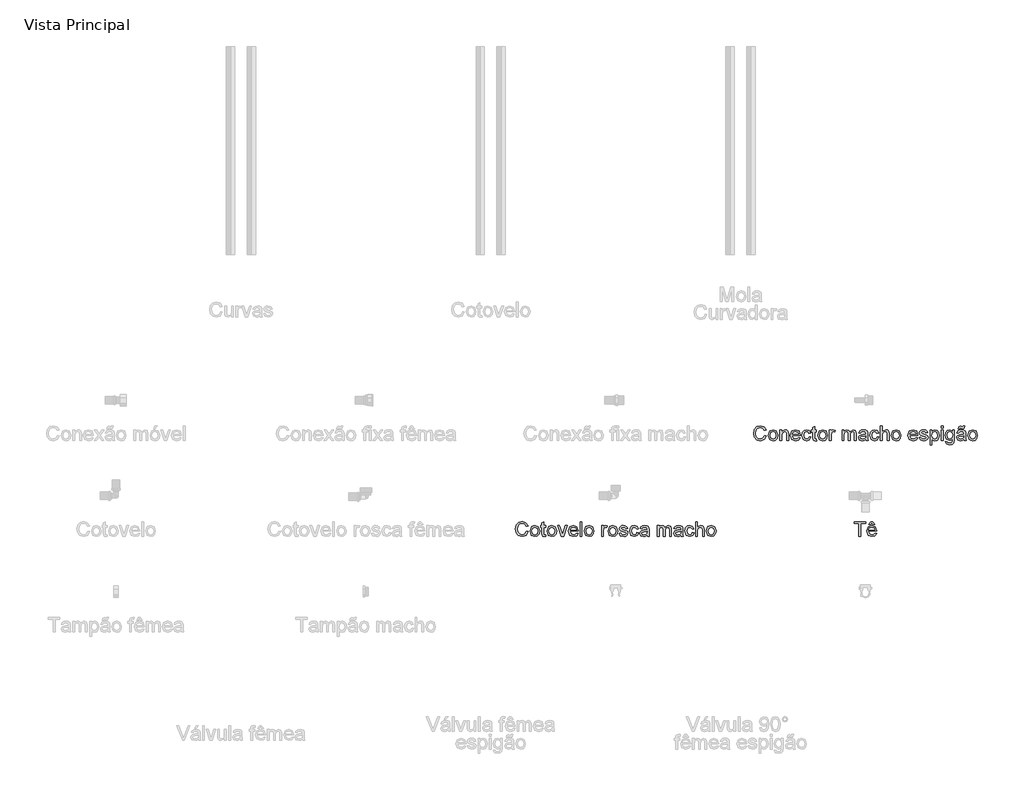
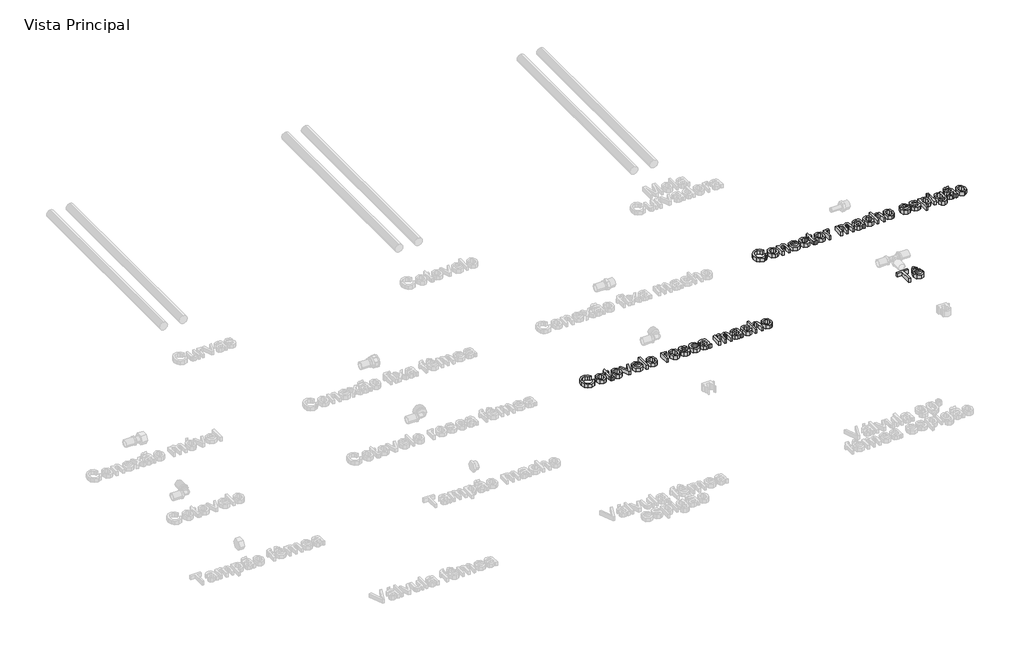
# One storey, part 4 of 5: 3 proxies.
"""IFC4 building model written with IfcOpenShell, lengths in millimetres."""

from ifc_helpers import new_model, si_unit, origin, origin_with_axes, place, context, project, spatial, polyline, outline, extrude, element, save

model = new_model("IFC4")

# Units and contexts
model_context = context("Model", 3, world=origin())
ifc_project = project(units=[si_unit("LENGTHUNIT", "METRE", prefix="MILLI")], contexts=[model_context])

# Site, building, storey
site = spatial("IfcSite", under=ifc_project)
building = spatial("IfcBuilding", under=site)
storey = spatial("IfcBuildingStorey", under=building, Name="Vista Principal", Elevation=0.0)

# Proxies
placement = place(None, origin())
element("IfcBuildingElementProxy", 1, Name="Texto", ObjectType="Texto", at=placement, inside=storey, context=model_context, shape_type="SweptSolid", body=[
    extrude(outline(polyline([(466.0795814, -120.9709901), (470.474545, -122.1040666), (465.2641097, -130.966957), (456.0621547, -134.0185382), (446.9159951, -131.7094655), (441.5510494, -125.0225971), (439.7098, -115.6232122), (441.791399, -106.0693168), (447.7100071, -99.8760234), (456.1565777, -97.7600888), (464.9593807, -100.4983571), (469.9251745, -108.2067111), (465.530211, -109.2539486), (461.9249674, -103.8503752), (455.9848995, -102.1550523), (449.109185, -104.0349293), (445.2249642, -109.0822703), (444.1047636, -115.6146283), (445.4309782, -123.1856397), (449.5598404, -128.0226748), (455.6243751, -129.6235746), (462.3498711, -127.4432607), (466.0795814, -120.9709901)])), origin_with_axes(), (0.0, 0.0, 1.0), 10.0),
    extrude(outline(polyline([(474.8695086, -120.5589623), (478.6721821, -109.9578294), (486.4148718, -107.0993863), (494.7198079, -110.5801632), (497.9430673, -120.1984379), (496.5181377, -128.0183829), (492.3678157, -132.4433901), (486.4148718, -134.0185382), (478.0584323, -130.5506373), (474.8695086, -120.5589623)]), holes=[polyline([(479.2644721, -120.5503784), (481.2988596, -127.3617135), (486.4148718, -129.6235746), (491.5137163, -127.3488376), (493.5481037, -120.4130357), (491.5008404, -113.756211), (486.4148718, -111.4943499), (481.2988596, -113.7476271), (479.2644721, -120.5503784)])]), origin_with_axes(), (0.0, 0.0, 1.0), 10.0),
    extrude(outline(polyline([(502.8874013, -133.4691678), (502.8874013, -107.6487568), (507.2823649, -107.6487568), (507.2823649, -111.2540003), (515.2310685, -107.0993863), (519.3813906, -107.9363179), (522.2140819, -110.1337997), (523.5317126, -113.365643), (523.7634783, -117.61468), (523.7634783, -133.4691678), (519.3685147, -133.4691678), (519.3685147, -118.20697), (518.8620638, -114.3184574), (517.0723179, -112.2626101), (514.0550724, -111.4943499), (509.2867086, -113.2197165), (507.2823649, -119.7692423), (507.2823649, -133.4691678), (502.8874013, -133.4691678)])), origin_with_axes(), (0.0, 0.0, 1.0), 10.0),
    extrude(outline(polyline([(547.8842744, -125.7779815), (552.1933988, -126.327352), (548.1632516, -132.0013186), (540.6566195, -134.0185382), (531.5319197, -130.5377614), (528.1584418, -120.7735601), (531.5662554, -110.6874621), (540.407686, -107.0993863), (548.9958912, -110.6788782), (552.3307415, -120.7478084), (532.5534054, -121.9323884), (535.0813678, -127.6406907), (540.7424586, -129.6235746), (545.051583, -128.7050959), (547.8842744, -125.7779815)]), holes=[polyline([(532.5534054, -117.5374248), (547.9357779, -117.5374248), (546.1760757, -113.5544891), (540.3905182, -111.4943499), (534.9783609, -113.1381693), (532.5534054, -117.5374248)])]), origin_with_axes(), (0.0, 0.0, 1.0), 10.0),
    extrude(outline(polyline([(573.2068184, -124.1298702), (577.601782, -124.6792406), (574.0737936, -131.5420792), (567.1036561, -134.0185382), (558.7729683, -130.5635131), (555.6269641, -120.6533853), (556.9703466, -113.3527671), (561.0648732, -108.6616585), (567.0435687, -107.0993863), (573.7261452, -109.2453646), (577.0524115, -115.339943), (572.657448, -115.8893135), (570.6187686, -112.5973828), (567.0779044, -111.4943499), (561.9833519, -113.66608), (560.0219277, -120.5332105), (561.9404323, -127.4647205), (566.9577296, -129.6235746), (571.0994677, -128.2759003), (573.2068184, -124.1298702)])), origin_with_axes(), (0.0, 0.0, 1.0), 10.0),
    extrude(outline(polyline([(590.7866727, -129.8038368), (591.3360431, -133.5979265), (588.0484044, -134.0185382), (584.3659056, -133.2889056), (582.5289482, -131.3746929), (581.9967455, -126.3874393), (581.9967455, -112.0437204), (578.7005229, -112.0437204), (578.7005229, -107.6487568), (581.9967455, -107.6487568), (581.9967455, -101.3739162), (586.3917091, -98.7901583), (586.3917091, -107.6487568), (590.7866727, -107.6487568), (590.7866727, -112.0437204), (586.3917091, -112.0437204), (586.3917091, -126.2586806), (586.6234748, -128.5248337), (590.7866727, -129.8038368)])), origin_with_axes(), (0.0, 0.0, 1.0), 10.0),
    extrude(outline(polyline([(594.0828954, -120.5589623), (597.8855689, -109.9578294), (605.6282586, -107.0993863), (613.9331947, -110.5801632), (617.1564541, -120.1984379), (615.7315245, -128.0183829), (611.5812025, -132.4433901), (605.6282586, -134.0185382), (597.2718191, -130.5506373), (594.0828954, -120.5589623)]), holes=[polyline([(598.4778589, -120.5503784), (600.5122464, -127.3617135), (605.6282586, -129.6235746), (610.7271031, -127.3488376), (612.7614905, -120.4130357), (610.7142272, -113.756211), (605.6282586, -111.4943499), (600.5122464, -113.7476271), (598.4778589, -120.5503784)])]), origin_with_axes(), (0.0, 0.0, 1.0), 10.0),
    extrude(outline(polyline([(622.1007881, -133.4691678), (622.1007881, -107.6487568), (625.9463812, -107.6487568), (625.9463812, -111.4685982), (628.6760656, -107.9491937), (631.4229179, -107.0993863), (635.8350493, -108.4556446), (634.3672001, -112.3956608), (631.2769913, -111.4943499), (628.7919485, -112.3613251), (627.2082165, -114.7648208), (626.4957517, -119.898001), (626.4957517, -133.4691678), (622.1007881, -133.4691678)])), origin_with_axes(), (0.0, 0.0, 1.0), 10.0),
    extrude(outline(polyline([(652.3161627, -133.4691678), (652.3161627, -107.6487568), (656.7111262, -107.6487568), (656.7111262, -111.8977938), (659.7326637, -108.417017), (664.0332042, -107.0993863), (668.4367517, -108.4427688), (670.8574152, -112.2068147), (678.6172728, -107.0993863), (684.3642027, -109.2239049), (686.3771303, -115.7691387), (686.3771303, -133.4691678), (681.9821667, -133.4691678), (681.9821667, -117.6575996), (681.5744309, -113.9879767), (680.0979978, -112.181063), (677.5872032, -111.4943499), (673.2652029, -113.2540521), (671.5441283, -118.8936831), (671.5441283, -133.4691678), (667.1491647, -133.4691678), (667.1491647, -117.1683165), (666.131971, -112.9106956), (662.7971207, -111.4943499), (659.5438176, -112.4385804), (657.3806715, -115.2026004), (656.7111262, -120.4473714), (656.7111262, -133.4691678), (652.3161627, -133.4691678)])), origin_with_axes(), (0.0, 0.0, 1.0), 10.0),
    extrude(outline(polyline([(709.4506891, -130.1729451), (705.1887761, -133.151563), (700.4804997, -134.0185382), (694.0983603, -131.9326473), (691.8708348, -126.6020372), (692.7120583, -123.1255523), (694.9224159, -120.6018818), (697.9997488, -119.1597844), (701.8024224, -118.4988231), (709.4249373, -116.9880544), (708.2403573, -112.7647691), (703.3818624, -111.4943499), (698.9353954, -112.3398654), (696.8151688, -115.339943), (692.4202052, -114.7905726), (694.321542, -110.498616), (698.1499673, -107.9835294), (703.9484007, -107.0993863), (709.2747188, -107.8805224), (712.2833804, -109.8419466), (713.6310548, -112.8248565), (713.8456526, -116.6704496), (713.8456526, -122.1384023), (714.0688344, -129.7737931), (714.9443935, -133.4691678), (710.5494299, -133.4691678), (709.4506891, -130.1729451)]), holes=[polyline([(709.4378132, -122.0053516), (702.3603767, -122.7306923), (698.579163, -123.4431571), (696.8666723, -124.6019854), (696.2657983, -126.2930163), (697.5748451, -128.6707603), (701.4161463, -129.6235746), (705.8626133, -128.5720453), (708.7296403, -126.026915), (709.4378132, -122.0053516)])]), origin_with_axes(), (0.0, 0.0, 1.0), 10.0),
    extrude(outline(polyline([(736.3698409, -124.1298702), (740.7648045, -124.6792406), (737.2368161, -131.5420792), (730.2666786, -134.0185382), (721.9359908, -130.5635131), (718.7899866, -120.6533853), (720.1333691, -113.3527671), (724.2278957, -108.6616585), (730.2065912, -107.0993863), (736.8891677, -109.2453646), (740.215434, -115.339943), (735.8204705, -115.8893135), (733.7817911, -112.5973828), (730.2409269, -111.4943499), (725.1463744, -113.66608), (723.1849502, -120.5332105), (725.1034548, -127.4647205), (730.1207521, -129.6235746), (734.2624902, -128.2759003), (736.3698409, -124.1298702)])), origin_with_axes(), (0.0, 0.0, 1.0), 10.0),
    extrude(outline(polyline([(744.6103976, -133.4691678), (744.6103976, -98.3094592), (749.0053612, -98.3094592), (749.0053612, -111.2368325), (756.6536279, -107.0993863), (761.589378, -108.2281709), (764.5851637, -111.3484234), (765.4864746, -117.125397), (765.4864746, -133.4691678), (761.091511, -133.4691678), (761.091511, -117.5803444), (759.6923331, -112.9450312), (755.7265652, -111.4943499), (752.1256136, -112.472916), (749.7221179, -115.1253452), (749.0053612, -119.7520744), (749.0053612, -133.4691678), (744.6103976, -133.4691678)])), origin_with_axes(), (0.0, 0.0, 1.0), 10.0),
    extrude(outline(polyline([(770.4308086, -120.5589623), (774.2334821, -109.9578294), (781.9761719, -107.0993863), (790.2811079, -110.5801632), (793.5043673, -120.1984379), (792.0794377, -128.0183829), (787.9291157, -132.4433901), (781.9761719, -134.0185382), (773.6197323, -130.5506373), (770.4308086, -120.5589623)]), holes=[polyline([(774.8257721, -120.5503784), (776.8601596, -127.3617135), (781.9761719, -129.6235746), (787.0750163, -127.3488376), (789.1094037, -120.4130357), (787.0621404, -113.756211), (781.9761719, -111.4943499), (776.8601596, -113.7476271), (774.8257721, -120.5503784)])]), origin_with_axes(), (0.0, 0.0, 1.0), 10.0),
    extrude(outline(polyline([(830.2606837, -125.7779815), (834.5698082, -126.327352), (830.5396609, -132.0013186), (823.0330288, -134.0185382), (813.908329, -130.5377614), (810.5348511, -120.7735601), (813.9426647, -110.6874621), (822.7840953, -107.0993863), (831.3723005, -110.6788782), (834.7071508, -120.7478084), (814.9298147, -121.9323884), (817.4577772, -127.6406907), (823.1188679, -129.6235746), (827.4279924, -128.7050959), (830.2606837, -125.7779815)]), holes=[polyline([(814.9298147, -117.5374248), (830.3121872, -117.5374248), (828.552485, -113.5544891), (822.7669275, -111.4943499), (817.3547702, -113.1381693), (814.9298147, -117.5374248)])]), origin_with_axes(), (0.0, 0.0, 1.0), 10.0),
    extrude(outline(polyline([(837.454003, -125.7779815), (841.8489666, -125.2286111), (843.883354, -128.4904981), (848.5444189, -129.6235746), (853.0252216, -128.5849211), (854.4844868, -126.1470898), (853.0166377, -124.1727897), (848.4929154, -122.9195384), (841.8747183, -120.7692681), (838.9862315, -118.2584735), (838.0033734, -114.7133174), (838.7930935, -111.4385545), (840.9476557, -108.9363438), (843.7417194, -107.6358809), (847.5229332, -107.0993863), (852.8707111, -107.9620696), (856.2699408, -110.296894), (857.7807095, -114.2412021), (853.3857459, -114.7905726), (851.7333426, -112.3656171), (847.8662897, -111.4943499), (843.6601723, -112.3269895), (842.398337, -114.2669539), (844.5614831, -116.5159391), (848.3469889, -117.4515857), (854.7977997, -119.5203088), (857.7935854, -121.8637171), (858.8794504, -125.6835585), (857.6047393, -129.8896759), (853.9265325, -132.9412571), (848.4843315, -134.0185382), (840.818897, -131.9412312), (837.454003, -125.7779815)])), origin_with_axes(), (0.0, 0.0, 1.0), 10.0),
    extrude(outline(polyline([(863.8237844, -143.3578358), (863.8237844, -107.6487568), (868.218748, -107.6487568), (868.218748, -111.9578812), (871.2574533, -108.3140101), (875.3605638, -107.0993863), (880.9315235, -108.7990012), (884.5711027, -113.5888247), (885.7986023, -120.3615323), (884.4123003, -127.4818883), (880.386445, -132.3317993), (874.8283612, -134.0185382), (871.0042278, -132.8897536), (868.218748, -130.0356025), (868.218748, -143.3578358), (863.8237844, -143.3578358)]), holes=[polyline([(868.218748, -120.7649762), (870.1200848, -127.4604285), (874.7339381, -129.6235746), (879.4422145, -127.3831733), (881.4036387, -120.4387875), (879.489426, -113.7261673), (874.9142003, -111.4943499), (870.2488435, -113.8678019), (868.218748, -120.7649762)])]), origin_with_axes(), (0.0, 0.0, 1.0), 10.0),
    extrude(outline(polyline([(890.7429363, -102.7044228), (890.7429363, -98.3094592), (895.1378998, -98.3094592), (895.1378998, -102.7044228), (890.7429363, -102.7044228)])), origin_with_axes(), (0.0, 0.0, 1.0), 10.0),
    extrude(outline(polyline([(890.7429363, -133.4691678), (890.7429363, -107.6487568), (895.1378998, -107.6487568), (895.1378998, -133.4691678), (890.7429363, -133.4691678)])), origin_with_axes(), (0.0, 0.0, 1.0), 10.0),
    extrude(outline(polyline([(900.6316043, -135.6666495), (905.0265679, -136.21602), (906.4514975, -138.5336766), (910.7177023, -139.5122427), (915.2156729, -138.4049179), (917.3616512, -135.2975413), (917.6620881, -130.1729451), (910.7949576, -133.4691678), (902.8848815, -129.6321585), (900.0822339, -120.4302036), (901.3397771, -113.6188684), (904.9793564, -108.7990012), (910.5803597, -107.0993863), (917.6620881, -110.9449795), (917.6620881, -107.6487568), (922.0570517, -107.6487568), (922.0570517, -129.9411794), (920.8553039, -138.4778811), (917.0483383, -142.447941), (910.6318632, -143.9072062), (903.3226611, -141.851359), (900.6316043, -135.6666495)]), holes=[polyline([(904.4771974, -120.1297666), (906.3527825, -126.9325178), (911.0610589, -129.0742042), (915.7607514, -126.9453937), (917.6620881, -120.2585253), (915.7049559, -113.7047076), (910.9923876, -111.4943499), (906.3785342, -113.6703719), (904.4771974, -120.1297666)])]), origin_with_axes(), (0.0, 0.0, 1.0), 10.0),
    extrude(outline(polyline([(945.1306104, -130.1729451), (940.8686975, -133.151563), (936.1604211, -134.0185382), (929.7782816, -131.9326473), (927.5507562, -126.6020372), (928.3919797, -123.1255523), (930.6023373, -120.6018818), (933.6796702, -119.1597844), (937.4823438, -118.4988231), (945.1048587, -116.9880544), (943.9202787, -112.7647691), (939.0617838, -111.4943499), (934.6153167, -112.3398654), (932.4950902, -115.339943), (928.1001266, -114.7905726), (930.0014634, -110.498616), (933.8298887, -107.9835294), (939.6283221, -107.0993863), (944.9546402, -107.8805224), (947.9633018, -109.8419466), (949.3109762, -112.8248565), (949.525574, -116.6704496), (949.525574, -122.1384023), (949.7487558, -129.7737931), (950.6243149, -133.4691678), (946.2293513, -133.4691678), (945.1306104, -130.1729451)]), holes=[polyline([(945.1177346, -122.0053516), (938.0402981, -122.7306923), (934.2590843, -123.4431571), (932.5465937, -124.6019854), (931.9457197, -126.2930163), (933.2547665, -128.6707603), (937.0960677, -129.6235746), (941.5425347, -128.5720453), (944.4095617, -126.026915), (945.1177346, -122.0053516)])]), origin_with_axes(), (0.0, 0.0, 1.0), 10.0),
    extrude(outline(polyline([(931.3963493, -104.9019046), (932.7611915, -100.1034971), (936.2548442, -98.3094592), (939.7742486, -99.7258049), (941.5511186, -100.506941), (942.9331287, -98.3094592), (946.7787218, -98.3094592), (945.3838359, -103.2537932), (942.0146499, -104.9019046), (938.5381651, -103.5628141), (936.6840398, -102.7044228), (935.2419424, -104.9019046), (931.3963493, -104.9019046)])), origin_with_axes(), (0.0, 0.0, 1.0), 10.0),
    extrude(outline(polyline([(954.469908, -120.5589623), (958.2725816, -109.9578294), (966.0152713, -107.0993863), (974.3202073, -110.5801632), (977.5434668, -120.1984379), (976.1185372, -128.0183829), (971.9682151, -132.4433901), (966.0152713, -134.0185382), (957.6588318, -130.5506373), (954.469908, -120.5589623)]), holes=[polyline([(958.8648716, -120.5503784), (960.899259, -127.3617135), (966.0152713, -129.6235746), (971.1141158, -127.3488376), (973.1485032, -120.4130357), (971.1012399, -113.756211), (966.0152713, -111.4943499), (960.899259, -113.7476271), (958.8648716, -120.5503784)])]), origin_with_axes(), (0.0, 0.0, 1.0), 10.0),
])
element("IfcBuildingElementProxy", 2, Name="Texto", ObjectType="Texto", at=placement, inside=storey, context=model_context, shape_type="SweptSolid", body=[
    extrude(outline(polyline([(-105.9025258, -350.9709901), (-101.5075623, -352.1040666), (-106.7179976, -360.966957), (-115.9199526, -364.0185382), (-125.0661121, -361.7094655), (-130.4310579, -355.0225971), (-132.2723072, -345.6232122), (-130.1907083, -336.0693168), (-124.2721001, -329.8760234), (-115.8255295, -327.7600888), (-107.0227265, -330.4983571), (-102.0569327, -338.2067111), (-106.4518963, -339.2539486), (-110.0571398, -333.8503752), (-115.9972078, -332.1550523), (-122.8729223, -334.0349293), (-126.757143, -339.0822703), (-127.8773437, -345.6146283), (-126.5511291, -353.1856397), (-122.4222668, -358.0226748), (-116.3577321, -359.6235746), (-109.6322361, -357.4432607), (-105.9025258, -350.9709901)])), origin_with_axes(), (0.0, 0.0, 1.0), 10.0),
    extrude(outline(polyline([(-97.1125987, -350.5589623), (-93.3099251, -339.9578294), (-85.5672354, -337.0993863), (-77.2622994, -340.5801632), (-74.03904, -350.1984379), (-75.4639696, -358.0183829), (-79.6142916, -362.4433901), (-85.5672354, -364.0185382), (-93.9236749, -360.5506373), (-97.1125987, -350.5589623)]), holes=[polyline([(-92.7176351, -350.5503784), (-90.6832477, -357.3617135), (-85.5672354, -359.6235746), (-80.468391, -357.3488376), (-78.4340035, -350.4130357), (-80.4812668, -343.756211), (-85.5672354, -341.4943499), (-90.6832477, -343.7476271), (-92.7176351, -350.5503784)])]), origin_with_axes(), (0.0, 0.0, 1.0), 10.0),
    extrude(outline(polyline([(-59.7554084, -359.8038368), (-59.2060379, -363.5979265), (-62.4936767, -364.0185382), (-66.1761754, -363.2889056), (-68.0131329, -361.3746929), (-68.5453355, -356.3874393), (-68.5453355, -342.0437204), (-71.8415582, -342.0437204), (-71.8415582, -337.6487568), (-68.5453355, -337.6487568), (-68.5453355, -331.3739162), (-64.1503719, -328.7901583), (-64.1503719, -337.6487568), (-59.7554084, -337.6487568), (-59.7554084, -342.0437204), (-64.1503719, -342.0437204), (-64.1503719, -356.2586806), (-63.9186063, -358.5248337), (-59.7554084, -359.8038368)])), origin_with_axes(), (0.0, 0.0, 1.0), 10.0),
    extrude(outline(polyline([(-56.4591857, -350.5589623), (-52.6565121, -339.9578294), (-44.9138224, -337.0993863), (-36.6088864, -340.5801632), (-33.3856269, -350.1984379), (-34.8105565, -358.0183829), (-38.9608786, -362.4433901), (-44.9138224, -364.0185382), (-53.2702619, -360.5506373), (-56.4591857, -350.5589623)]), holes=[polyline([(-52.0642221, -350.5503784), (-50.0298347, -357.3617135), (-44.9138224, -359.6235746), (-39.8149779, -357.3488376), (-37.7805905, -350.4130357), (-39.8278538, -343.756211), (-44.9138224, -341.4943499), (-50.0298347, -343.7476271), (-52.0642221, -350.5503784)])]), origin_with_axes(), (0.0, 0.0, 1.0), 10.0),
    extrude(outline(polyline([(-22.106365, -363.4691678), (-31.1881452, -337.6487568), (-26.5356642, -337.6487568), (-21.0333758, -353.1169684), (-19.3766806, -358.3188198), (-17.754321, -353.4088215), (-12.2176969, -337.6487568), (-7.565216, -337.6487568), (-16.5354053, -363.4691678), (-22.106365, -363.4691678)])), origin_with_axes(), (0.0, 0.0, 1.0), 10.0),
    extrude(outline(polyline([(14.3580984, -355.7779815), (18.6672228, -356.327352), (14.6370756, -362.0013186), (7.1304435, -364.0185382), (-1.9942563, -360.5377614), (-5.3677342, -350.7735601), (-1.9599206, -340.6874621), (6.88151, -337.0993863), (15.4697152, -340.6788782), (18.8045654, -350.7478084), (-0.9727706, -351.9323884), (1.5551918, -357.6406907), (7.2162826, -359.6235746), (11.525407, -358.7050959), (14.3580984, -355.7779815)]), holes=[polyline([(-0.9727706, -347.5374248), (14.4096019, -347.5374248), (12.6498997, -343.5544891), (6.8643421, -341.4943499), (1.4521849, -343.1381693), (-0.9727706, -347.5374248)])]), origin_with_axes(), (0.0, 0.0, 1.0), 10.0),
    extrude(outline(polyline([(23.199529, -363.4691678), (23.199529, -328.3094592), (27.5944926, -328.3094592), (27.5944926, -363.4691678), (23.199529, -363.4691678)])), origin_with_axes(), (0.0, 0.0, 1.0), 10.0),
    extrude(outline(polyline([(33.088197, -350.5589623), (36.8908706, -339.9578294), (44.6335603, -337.0993863), (52.9384964, -340.5801632), (56.1617558, -350.1984379), (54.7368262, -358.0183829), (50.5865041, -362.4433901), (44.6335603, -364.0185382), (36.2771208, -360.5506373), (33.088197, -350.5589623)]), holes=[polyline([(37.4831606, -350.5503784), (39.517548, -357.3617135), (44.6335603, -359.6235746), (49.7324048, -357.3488376), (51.7667922, -350.4130357), (49.7195289, -343.756211), (44.6335603, -341.4943499), (39.517548, -343.7476271), (37.4831606, -350.5503784)])]), origin_with_axes(), (0.0, 0.0, 1.0), 10.0),
    extrude(outline(polyline([(74.8403509, -363.4691678), (74.8403509, -337.6487568), (78.6859441, -337.6487568), (78.6859441, -341.4685982), (81.4156285, -337.9491937), (84.1624807, -337.0993863), (88.5746121, -338.4556446), (87.1067629, -342.3956608), (84.0165542, -341.4943499), (81.5315113, -342.3613251), (79.9477793, -344.7648208), (79.2353145, -349.898001), (79.2353145, -363.4691678), (74.8403509, -363.4691678)])), origin_with_axes(), (0.0, 0.0, 1.0), 10.0),
    extrude(outline(polyline([(90.2227234, -350.5589623), (94.025397, -339.9578294), (101.7680867, -337.0993863), (110.0730228, -340.5801632), (113.2962822, -350.1984379), (111.8713526, -358.0183829), (107.7210305, -362.4433901), (101.7680867, -364.0185382), (93.4116472, -360.5506373), (90.2227234, -350.5589623)]), holes=[polyline([(94.617687, -350.5503784), (96.6520744, -357.3617135), (101.7680867, -359.6235746), (106.8669312, -357.3488376), (108.9013186, -350.4130357), (106.8540553, -343.756211), (101.7680867, -341.4943499), (96.6520744, -343.7476271), (94.617687, -350.5503784)])]), origin_with_axes(), (0.0, 0.0, 1.0), 10.0),
    extrude(outline(polyline([(116.5925049, -355.7779815), (120.9874684, -355.2286111), (123.0218559, -358.4904981), (127.6829207, -359.6235746), (132.1637234, -358.5849211), (133.6229887, -356.1470898), (132.1551395, -354.1727897), (127.6314173, -352.9195384), (121.0132202, -350.7692681), (118.1247334, -348.2584735), (117.1418753, -344.7133174), (117.9315953, -341.4385545), (120.0861575, -338.9363438), (122.8802213, -337.6358809), (126.6614351, -337.0993863), (132.009213, -337.9620696), (135.4084426, -340.296894), (136.9192114, -344.2412021), (132.5242478, -344.7905726), (130.8718445, -342.3656171), (127.0047916, -341.4943499), (122.7986741, -342.3269895), (121.5368389, -344.2669539), (123.699985, -346.5159391), (127.4854907, -347.4515857), (133.9363015, -349.5203088), (136.9320872, -351.8637171), (138.0179522, -355.6835585), (136.7432411, -359.8896759), (133.0650343, -362.9412571), (127.6228333, -364.0185382), (119.9573988, -361.9412312), (116.5925049, -355.7779815)])), origin_with_axes(), (0.0, 0.0, 1.0), 10.0),
    extrude(outline(polyline([(159.4433996, -354.1298702), (163.8383632, -354.6792406), (160.3103749, -361.5420792), (153.3402373, -364.0185382), (145.0095496, -360.5635131), (141.8635454, -350.6533853), (143.2069278, -343.3527671), (147.3014544, -338.6616585), (153.28015, -337.0993863), (159.9627264, -339.2453646), (163.2889928, -345.339943), (158.8940292, -345.8893135), (156.8553498, -342.5973828), (153.3144856, -341.4943499), (148.2199331, -343.66608), (146.2585089, -350.5332105), (148.1770135, -357.4647205), (153.1943108, -359.6235746), (157.336049, -358.2759003), (159.4433996, -354.1298702)])), origin_with_axes(), (0.0, 0.0, 1.0), 10.0),
    extrude(outline(polyline([(184.1650697, -360.1729451), (179.9031568, -363.151563), (175.1948804, -364.0185382), (168.8127409, -361.9326473), (166.5852154, -356.6020372), (167.4264389, -353.1255523), (169.6367966, -350.6018818), (172.7141295, -349.1597844), (176.516803, -348.4988231), (184.139318, -346.9880544), (182.954738, -342.7647691), (178.0962431, -341.4943499), (173.649776, -342.3398654), (171.5295495, -345.339943), (167.1345859, -344.7905726), (169.0359227, -340.498616), (172.864348, -337.9835294), (178.6627813, -337.0993863), (183.9890995, -337.8805224), (186.9977611, -339.8419466), (188.3454355, -342.8248565), (188.5600333, -346.6704496), (188.5600333, -352.1384023), (188.783215, -359.7737931), (189.6587742, -363.4691678), (185.2638106, -363.4691678), (184.1650697, -360.1729451)]), holes=[polyline([(184.1521939, -352.0053516), (177.0747574, -352.7306923), (173.2935436, -353.4431571), (171.5810529, -354.6019854), (170.980179, -356.2930163), (172.2892258, -358.6707603), (176.1305269, -359.6235746), (180.576994, -358.5720453), (183.444021, -356.026915), (184.1521939, -352.0053516)])]), origin_with_axes(), (0.0, 0.0, 1.0), 10.0),
    extrude(outline(polyline([(208.3373694, -363.4691678), (208.3373694, -337.6487568), (212.7323329, -337.6487568), (212.7323329, -341.8977938), (215.7538704, -338.417017), (220.0544109, -337.0993863), (224.4579584, -338.4427688), (226.8786219, -342.2068147), (234.6384795, -337.0993863), (240.3854094, -339.2239049), (242.398337, -345.7691387), (242.398337, -363.4691678), (238.0033734, -363.4691678), (238.0033734, -347.6575996), (237.5956376, -343.9879767), (236.1192045, -342.181063), (233.6084099, -341.4943499), (229.2864096, -343.2540521), (227.565335, -348.8936831), (227.565335, -363.4691678), (223.1703714, -363.4691678), (223.1703714, -347.1683165), (222.1531777, -342.9106956), (218.8183274, -341.4943499), (215.5650243, -342.4385804), (213.4018782, -345.2026004), (212.7323329, -350.4473714), (212.7323329, -363.4691678), (208.3373694, -363.4691678)])), origin_with_axes(), (0.0, 0.0, 1.0), 10.0),
    extrude(outline(polyline([(265.4718958, -360.1729451), (261.2099828, -363.151563), (256.5017064, -364.0185382), (250.119567, -361.9326473), (247.8920415, -356.6020372), (248.733265, -353.1255523), (250.9436226, -350.6018818), (254.0209555, -349.1597844), (257.8236291, -348.4988231), (265.446144, -346.9880544), (264.261564, -342.7647691), (259.4030691, -341.4943499), (254.9566021, -342.3398654), (252.8363755, -345.339943), (248.4414119, -344.7905726), (250.3427487, -340.498616), (254.171174, -337.9835294), (259.9696074, -337.0993863), (265.2959255, -337.8805224), (268.3045871, -339.8419466), (269.6522615, -342.8248565), (269.8668593, -346.6704496), (269.8668593, -352.1384023), (270.0900411, -359.7737931), (270.9656002, -363.4691678), (266.5706366, -363.4691678), (265.4718958, -360.1729451)]), holes=[polyline([(265.4590199, -352.0053516), (258.3815834, -352.7306923), (254.6003697, -353.4431571), (252.887879, -354.6019854), (252.287005, -356.2930163), (253.5960518, -358.6707603), (257.437353, -359.6235746), (261.88382, -358.5720453), (264.750847, -356.026915), (265.4590199, -352.0053516)])]), origin_with_axes(), (0.0, 0.0, 1.0), 10.0),
    extrude(outline(polyline([(292.3910476, -354.1298702), (296.7860112, -354.6792406), (293.2580228, -361.5420792), (286.2878853, -364.0185382), (277.9571975, -360.5635131), (274.8111933, -350.6533853), (276.1545758, -343.3527671), (280.2491024, -338.6616585), (286.2277979, -337.0993863), (292.9103744, -339.2453646), (296.2366407, -345.339943), (291.8416772, -345.8893135), (289.8029978, -342.5973828), (286.2621336, -341.4943499), (281.1675811, -343.66608), (279.2061569, -350.5332105), (281.1246615, -357.4647205), (286.1419588, -359.6235746), (290.2836969, -358.2759003), (292.3910476, -354.1298702)])), origin_with_axes(), (0.0, 0.0, 1.0), 10.0),
    extrude(outline(polyline([(300.6316043, -363.4691678), (300.6316043, -328.3094592), (305.0265679, -328.3094592), (305.0265679, -341.2368325), (312.6748346, -337.0993863), (317.6105847, -338.2281709), (320.6063704, -341.3484234), (321.5076813, -347.125397), (321.5076813, -363.4691678), (317.1127177, -363.4691678), (317.1127177, -347.5803444), (315.7135398, -342.9450312), (311.7477719, -341.4943499), (308.1468203, -342.472916), (305.7433246, -345.1253452), (305.0265679, -349.7520744), (305.0265679, -363.4691678), (300.6316043, -363.4691678)])), origin_with_axes(), (0.0, 0.0, 1.0), 10.0),
    extrude(outline(polyline([(326.4520153, -350.5589623), (330.2546888, -339.9578294), (337.9973786, -337.0993863), (346.3023146, -340.5801632), (349.525574, -350.1984379), (348.1006444, -358.0183829), (343.9503224, -362.4433901), (337.9973786, -364.0185382), (329.640939, -360.5506373), (326.4520153, -350.5589623)]), holes=[polyline([(330.8469788, -350.5503784), (332.8813663, -357.3617135), (337.9973786, -359.6235746), (343.096223, -357.3488376), (345.1306104, -350.4130357), (343.0833471, -343.756211), (337.9973786, -341.4943499), (332.8813663, -343.7476271), (330.8469788, -350.5503784)])]), origin_with_axes(), (0.0, 0.0, 1.0), 10.0),
])
element("IfcBuildingElementProxy", 3, Name="Texto", ObjectType="Texto", at=placement, inside=storey, context=model_context, shape_type="SweptSolid", body=[
    extrude(outline(polyline([(692.6948904, -363.4691678), (692.6948904, -332.7044228), (681.1581111, -332.7044228), (681.1581111, -328.3094592), (708.6266334, -328.3094592), (708.6266334, -332.7044228), (697.089854, -332.7044228), (697.089854, -363.4691678), (692.6948904, -363.4691678)])), origin_with_axes(), (0.0, 0.0, 1.0), 10.0),
    extrude(outline(polyline([(723.4596354, -330.506941), (720.9874684, -334.9019046), (716.5925049, -334.9019046), (721.2621536, -328.3094592), (725.6571172, -328.3094592), (730.8761364, -334.9019046), (726.4811729, -334.9019046), (723.4596354, -330.506941)])), origin_with_axes(), (0.0, 0.0, 1.0), 10.0),
    extrude(outline(polyline([(731.0993182, -355.7779815), (735.4084426, -356.327352), (731.3782954, -362.0013186), (723.8716633, -364.0185382), (714.7469635, -360.5377614), (711.3734856, -350.7735601), (714.7812992, -340.6874621), (723.6227298, -337.0993863), (732.210935, -340.6788782), (735.5457852, -350.7478084), (715.7684492, -351.9323884), (718.2964116, -357.6406907), (723.9575024, -359.6235746), (728.2666268, -358.7050959), (731.0993182, -355.7779815)]), holes=[polyline([(715.7684492, -347.5374248), (731.1508217, -347.5374248), (729.3911195, -343.5544891), (723.605562, -341.4943499), (718.1934047, -343.1381693), (715.7684492, -347.5374248)])]), origin_with_axes(), (0.0, 0.0, 1.0), 10.0),
])

save(model, "model.ifc")
